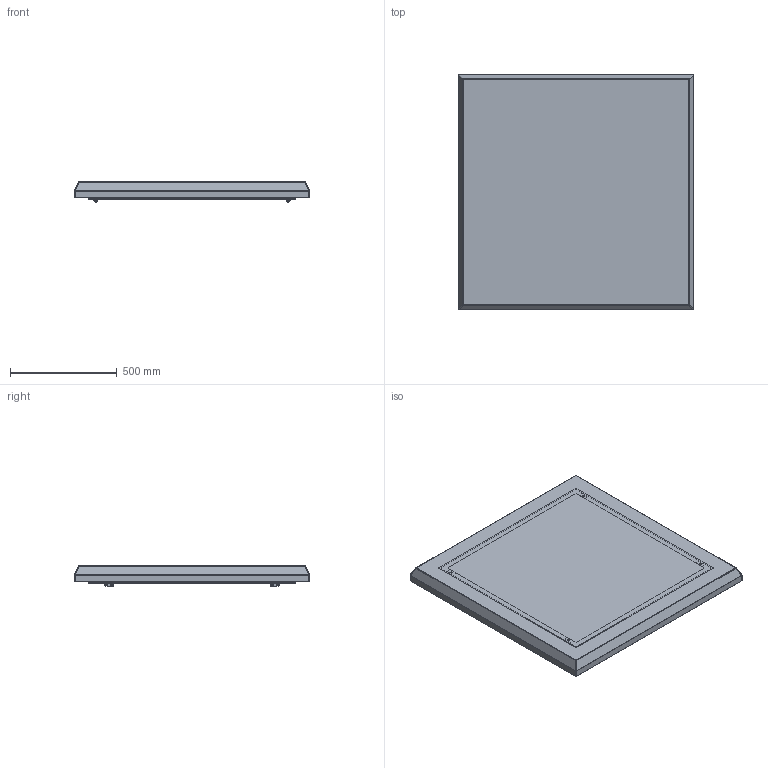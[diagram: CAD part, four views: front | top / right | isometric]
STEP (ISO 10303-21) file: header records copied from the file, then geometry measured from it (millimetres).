
FILE_DESCRIPTION(('STEP AP203'), '1');
FILE_NAME('3339 ÑÁ Óëè÷íàÿ êðûøà', '', ('UNSPECIFIED'), ('UNSPECIFIED'), 'C3D Converter', 'C3D Toolkit', '');
FILE_SCHEMA(('CONFIG_CONTROL_DESIGN'));
Length unit declared in the file: millimetre
Products named in the file (6): 3339.100.100 СБ; 3343; 3357
Assembly tree (21 placements, depth 2):
  3339.100.100 СБ
    3343
    3357  x4
    (unnamed)  x4
    (unnamed)  x4
    (unnamed)  x8
Bounding box: 1100 x 1100 x 96 mm (x, y, z)
Volume: 3176212.8 mm3; surface area: 3920141.4 mm2
Topology: 22 solids, 22 shells, 602 faces, 1380 edges, 836 vertices
Faces by surface type: plane 230, cylinder 144, cone 120, bspline 64, torus 28, sphere 16
Full cylindrical faces by diameter (mm): 4.8 x8, 4.917 x4, 6 x4, 6.6 x4, 6.75 x4, 7 x8, 10 x4, 12 x4
Entity records: 12795 total; most frequent: CARTESIAN_POINT 6373, DIRECTION 1234, ORIENTED_EDGE 1038, EDGE_CURVE 519, AXIS2_PLACEMENT_3D 495, VERTEX_POINT 307, EDGE_LOOP 304, FACE_BOUND 264
